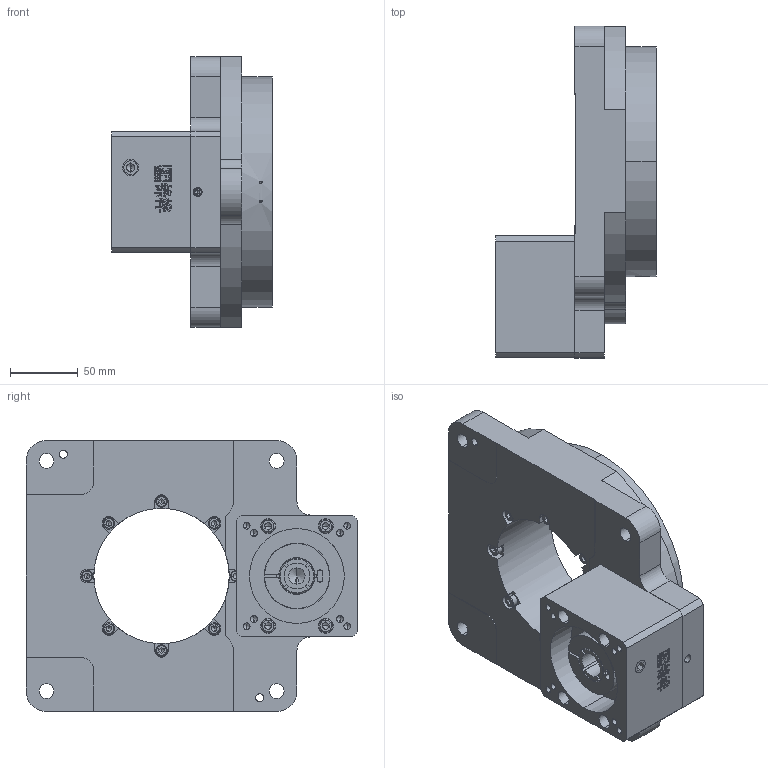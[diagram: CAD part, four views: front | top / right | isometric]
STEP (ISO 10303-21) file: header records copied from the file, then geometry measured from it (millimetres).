
FILE_DESCRIPTION (( 'STEP AP214' ), '1' );
FILE_NAME ('DG200-10.STEP', '2021-04-23T05:23:42', ( 'Microsoft' ), ( 'Microsoft China' ), 'SwSTEP 2.0', 'SolidWorks 2016', '' );
FILE_SCHEMA (( 'AUTOMOTIVE_DESIGN' ));
Length unit declared in the file: millimetre
Products named in the file (1): DG200-10
Bounding box: 118.5 x 245 x 200 mm (x, y, z)
Volume: 1888296.3 mm3; surface area: 205603.7 mm2
Topology: 16 solids, 16 shells, 1277 faces, 3408 edges, 2173 vertices
Faces by surface type: plane 874, cylinder 201, cone 118, bspline 60, torus 24
Entity records: 46454 total; most frequent: CARTESIAN_POINT 7899, ORIENTED_EDGE 6672, DIRECTION 6261, EDGE_CURVE 3336, LINE 2549, VECTOR 2549, VERTEX_POINT 2173, AXIS2_PLACEMENT_3D 1856
